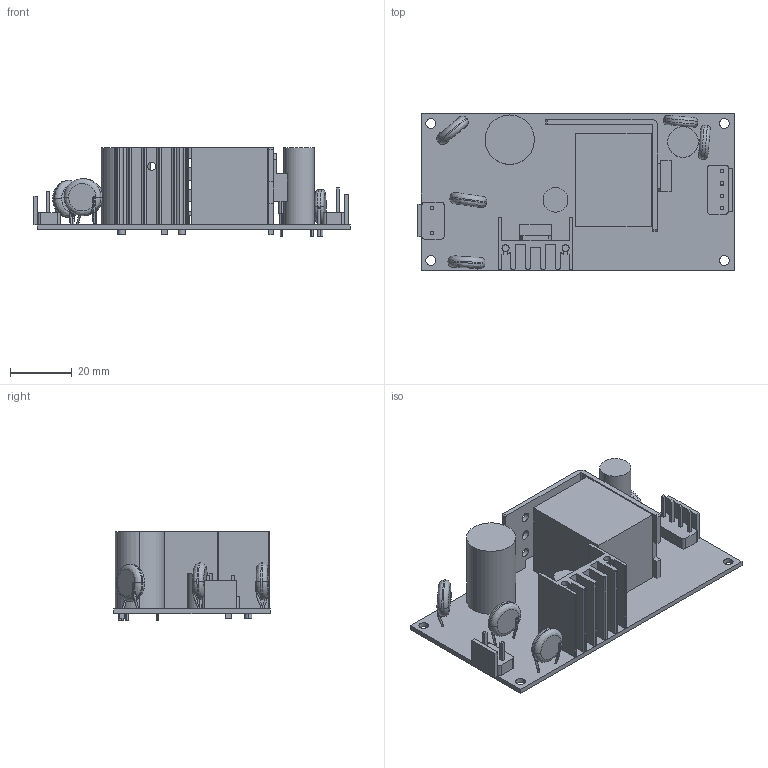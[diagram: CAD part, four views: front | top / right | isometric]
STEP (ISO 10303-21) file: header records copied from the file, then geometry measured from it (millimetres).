
FILE_DESCRIPTION(('Creo Elements/Direct Modeling STEP Export'),'2;1');
FILE_NAME('PSD-30STEP.stp','2020-07-16T14:19:34',(''),(''),'PTC Creo Elements/Direct Modeling STEP processor for AP214 (Solid Model)','PTC Creo Elements/Direct Modeling 19.0E 27-Jun-2016 (C) Parametric Technology GmbH','');
FILE_SCHEMA(('AUTOMOTIVE_DESIGN { 1 0 10303 214 1 1 1 1 }'));
Length unit declared in the file: millimetre
Products named in the file (22): PCB; YS003B-025; YS026W-025; HS; C1; Q1.PRT.1; Q1.PRT; T1_PRT.PRT; CN2-26510_PRT.PRT; CN2-26840_ASM.ASM; C1.1; CN1-34090_PRT_PRT.PRT; CN1-34420_ASM_ASM.ASM; 1BC1-Y-L140W040-P100.PRT.1; 1BC1-Y-L140W040-P100.PRT.1.1; C9; 1BC1-Y-L110W040-P075_1.PRT.1; 1BC1-Y-L110W040-P075_1.PRT.1.1; 1BC1-Y-L110W040-P075_1.PRT.1.1.1; part; PSD-30
Assembly tree (21 placements, depth 4):
  PSD-30
    part
      1BC1-Y-L110W040-P075_1.PRT.1.1.1
      1BC1-Y-L110W040-P075_1.PRT.1.1
      1BC1-Y-L110W040-P075_1.PRT.1
      C9
      1BC1-Y-L140W040-P100.PRT.1.1
      1BC1-Y-L140W040-P100.PRT.1
      CN1-34420_ASM_ASM.ASM
        CN1-34090_PRT_PRT.PRT
      C1.1
      CN2-26840_ASM.ASM
        CN2-26510_PRT.PRT
      T1_PRT.PRT
      Q1.PRT
      Q1.PRT.1
      C1
    HS
      YS026W-025
      YS003B-025
    PCB
      PCB
Bounding box: 102.61 x 50.8 x 28.6 mm (x, y, z)
Volume: 43562.1 mm3; surface area: 30289.4 mm2
Topology: 18 solids, 18 shells, 403 faces, 982 edges, 627 vertices
Faces by surface type: plane 199, cylinder 142, bspline 54, torus 8
Entity records: 17612 total; most frequent: CARTESIAN_POINT 6540, ORIENTED_EDGE 1964, DIRECTION 1649, EDGE_CURVE 976, VERTEX_POINT 627, AXIS2_PLACEMENT_3D 560, VECTOR 529, LINE 529
